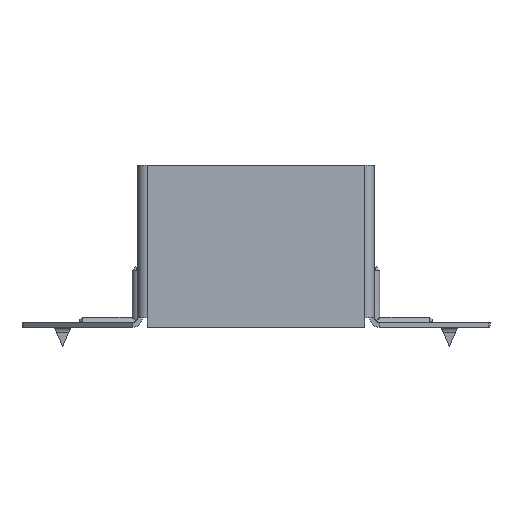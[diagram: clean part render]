
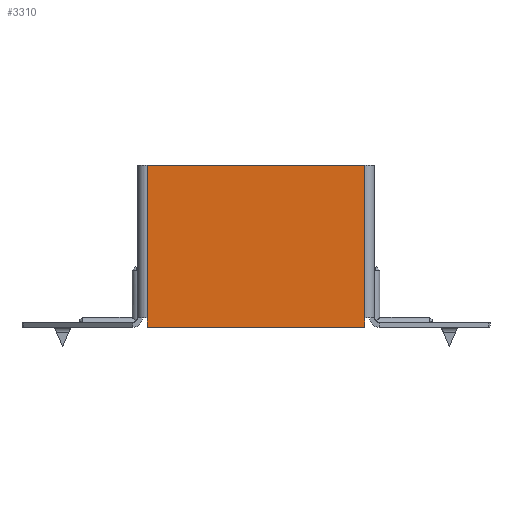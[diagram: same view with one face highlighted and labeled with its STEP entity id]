
A CAD part, front view. The second image highlights one B-rep face of the part: STEP entity #3310.
In plain terms, the highlighted planar face has unit normal (0, -1, 0).
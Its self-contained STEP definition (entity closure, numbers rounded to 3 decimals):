
#165 = CARTESIAN_POINT ( 'NONE',  ( 0., 0., 0. ) ) ;
#893 = VERTEX_POINT ( 'NONE', #12251 ) ;
#1011 = DIRECTION ( 'NONE',  ( 0., 0., 1. ) ) ;
#1235 = EDGE_CURVE ( 'NONE', #8278, #9287, #3555, .T. ) ;
#2006 = LINE ( 'NONE', #4405, #4232 ) ;
#2011 = CARTESIAN_POINT ( 'NONE',  ( 33.5, 0., -70. ) ) ;
#2581 = FACE_OUTER_BOUND ( 'NONE', #7022, .T. ) ;
#2687 = ORIENTED_EDGE ( 'NONE', *, *, #5915, .T. ) ;
#3310 = ADVANCED_FACE ( 'NONE', ( #2581 ), #8193, .F. ) ;
#3555 = LINE ( 'NONE', #5523, #6577 ) ;
#3779 = EDGE_CURVE ( 'NONE', #9287, #893, #13106, .T. ) ;
#4232 = VECTOR ( 'NONE', #7494, 1000. ) ;
#4260 = EDGE_CURVE ( 'NONE', #5999, #5895, #2006, .T. ) ;
#4359 = VECTOR ( 'NONE', #11094, 1000. ) ;
#4405 = CARTESIAN_POINT ( 'NONE',  ( -35., 0., -70. ) ) ;
#4426 = ORIENTED_EDGE ( 'NONE', *, *, #1235, .T. ) ;
#5022 = CARTESIAN_POINT ( 'NONE',  ( 33.5, 0., -70. ) ) ;
#5385 = EDGE_CURVE ( 'NONE', #893, #5895, #5818, .T. ) ;
#5436 = CARTESIAN_POINT ( 'NONE',  ( 33.5, 0., -67. ) ) ;
#5523 = CARTESIAN_POINT ( 'NONE',  ( 0., 0., -20. ) ) ;
#5818 = LINE ( 'NONE', #8733, #10375 ) ;
#5895 = VERTEX_POINT ( 'NONE', #7926 ) ;
#5915 = EDGE_CURVE ( 'NONE', #5999, #12338, #7991, .T. ) ;
#5999 = VERTEX_POINT ( 'NONE', #2011 ) ;
#6032 = CARTESIAN_POINT ( 'NONE',  ( 33.5, 0., -70. ) ) ;
#6377 = ORIENTED_EDGE ( 'NONE', *, *, #10100, .T. ) ;
#6577 = VECTOR ( 'NONE', #6659, 1000. ) ;
#6659 = DIRECTION ( 'NONE',  ( -1., 0., 0. ) ) ;
#7022 = EDGE_LOOP ( 'NONE', ( #4426, #11854, #7886, #7819, #2687, #6377 ) ) ;
#7168 = LINE ( 'NONE', #5022, #7640 ) ;
#7283 = DIRECTION ( 'NONE',  ( 0., 1., 0. ) ) ;
#7426 = CARTESIAN_POINT ( 'NONE',  ( 33.5, 0., -20. ) ) ;
#7494 = DIRECTION ( 'NONE',  ( -1., 0., 0. ) ) ;
#7640 = VECTOR ( 'NONE', #1011, 1000. ) ;
#7819 = ORIENTED_EDGE ( 'NONE', *, *, #4260, .F. ) ;
#7886 = ORIENTED_EDGE ( 'NONE', *, *, #5385, .T. ) ;
#7926 = CARTESIAN_POINT ( 'NONE',  ( -33.5, 0., -70. ) ) ;
#7991 = LINE ( 'NONE', #6032, #4359 ) ;
#8193 = PLANE ( 'NONE',  #10054 ) ;
#8278 = VERTEX_POINT ( 'NONE', #7426 ) ;
#8522 = CARTESIAN_POINT ( 'NONE',  ( -33.5, 0., -20. ) ) ;
#8720 = CARTESIAN_POINT ( 'NONE',  ( -33.5, 0., 0. ) ) ;
#8733 = CARTESIAN_POINT ( 'NONE',  ( -33.5, 0., 0. ) ) ;
#9287 = VERTEX_POINT ( 'NONE', #8522 ) ;
#9289 = DIRECTION ( 'NONE',  ( 0., 0., 1. ) ) ;
#10054 = AXIS2_PLACEMENT_3D ( 'NONE', #165, #7283, #9289 ) ;
#10100 = EDGE_CURVE ( 'NONE', #12338, #8278, #7168, .T. ) ;
#10375 = VECTOR ( 'NONE', #10777, 1000. ) ;
#10401 = VECTOR ( 'NONE', #11839, 1000. ) ;
#10777 = DIRECTION ( 'NONE',  ( 0., 0., -1. ) ) ;
#11094 = DIRECTION ( 'NONE',  ( 0., 0., 1. ) ) ;
#11839 = DIRECTION ( 'NONE',  ( 0., 0., -1. ) ) ;
#11854 = ORIENTED_EDGE ( 'NONE', *, *, #3779, .T. ) ;
#12251 = CARTESIAN_POINT ( 'NONE',  ( -33.5, 0., -67. ) ) ;
#12338 = VERTEX_POINT ( 'NONE', #5436 ) ;
#13106 = LINE ( 'NONE', #8720, #10401 ) ;
